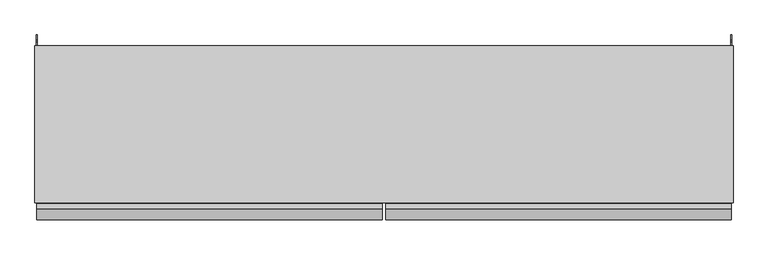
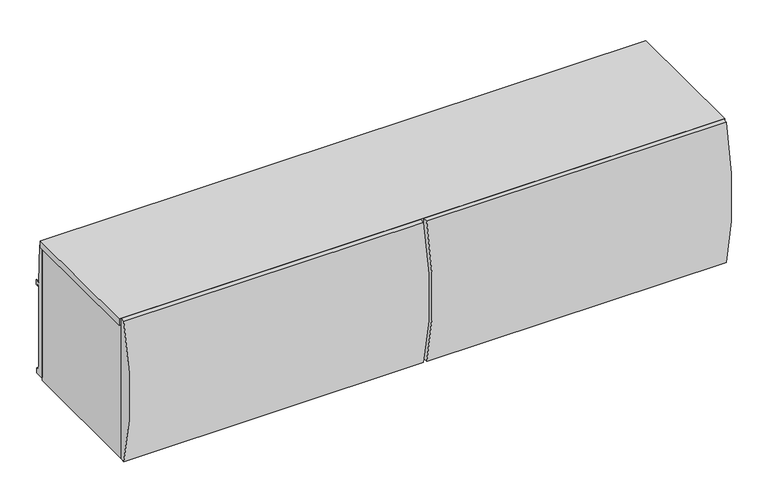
"""IFC4 building model written with IfcOpenShell, lengths in millimetres: furniture geometry, Steelcase - Universal Storage - Over the Case Bin - Radius Front : For Montage - 66W."""

from ifc_helpers import new_model, si_unit, point, frame, frame_2d, origin, place, context, project, spatial, polyline, circle_curve, trimmed, segment, composite_curve, outline, extrude, source, transform, mapped, element, save


def furniture_b9209c4d(model_context):
    return source(origin(), model_context, "Body", "SweptSolid", [
        extrude(outline(composite_curve([segment(polyline([(-393.0769518, 1677.2612846), (-379.476, 1677.2612846), (-379.476, 1266.8226746), (-393.0769518, 1266.8226746)]), True, "CONTINUOUS"), segment(trimmed(circle_curve(frame_2d((352.6331971, 1472.0419796)), 773.4329895), [point((-393.0769518, 1266.8226746))], [point((-393.0769518, 1677.2612846))], False, "CARTESIAN"), True, "CONTINUOUS")], self_intersect=False)), frame((842.772, 0.0, 0.0), z_axis=(1.0, 0.0, 0.0), x_axis=(0.0, 1.0, 0.0)), (0.0, 0.0, 1.0), 829.1983),
        extrude(outline(composite_curve([segment(polyline([(-393.0769518, 1677.2612846), (-379.476, 1677.2612846), (-379.476, 1266.8226746), (-393.0769518, 1266.8226746)]), True, "CONTINUOUS"), segment(trimmed(circle_curve(frame_2d((352.6331971, 1472.0419796)), 773.4329895), [point((-393.0769518, 1266.8226746))], [point((-393.0769518, 1677.2612846))], False, "CARTESIAN"), True, "CONTINUOUS")], self_intersect=False)), frame((4.4448587, 0.0, 0.0), z_axis=(1.0, 0.0, 0.0), x_axis=(0.0, 1.0, 0.0)), (0.0, 0.0, 1.0), 829.1831413),
        extrude(outline(polyline([(0.0, 1657.096), (10.1677703, 1657.096), (13.3857995, 1545.8185744), (26.0095997, 1545.8185744), (26.0095997, 1532.1025512), (17.5768, 1532.1025512), (17.5768, 1537.1064608), (13.3349998, 1537.1064608), (13.3349998, 1522.6538546), (14.2747998, 1522.6538546), (14.2747998, 1296.0858527), (17.2466001, 1296.0858527), (17.2466001, 1289.7358043), (22.5806007, 1289.7358043), (22.5806007, 1274.2164027), (0.0, 1274.2164027), (0.0, 1657.096)])), frame((1670.8882, 0.0, 0.0), z_axis=(1.0, 0.0, 0.0), x_axis=(0.0, 1.0, 0.0)), (0.0, 0.0, 1.0), 1.905),
        extrude(outline(polyline([(1676.4, -377.213238), (0.0, -377.213238), (0.0, 0.0), (1676.4, 0.0), (1676.4, -377.213238)])), frame((0.0, 0.0, 1657.35), z_axis=(0.0, 0.0, 1.0), x_axis=(1.0, 0.0, 0.0)), (0.0, 0.0, 1.0), 19.05),
        extrude(outline(polyline([(15.875, -377.213238), (5.5118, -377.213238), (5.5118, 0.0), (15.875, 0.0), (15.875, -377.213238)])), frame((0.0, 0.0, 1265.428), z_axis=(0.0, 0.0, 1.0), x_axis=(1.0, 0.0, 0.0)), (0.0, 0.0, 1.0), 391.6679457),
        extrude(outline(polyline([(1675.2568665, -377.213238), (1660.525, -377.213238), (1660.525, 0.0), (1675.2568665, 0.0), (1675.2568665, -377.213238)])), frame((0.0, 0.0, 1265.428), z_axis=(0.0, 0.0, 1.0), x_axis=(1.0, 0.0, 0.0)), (0.0, 0.0, 1.0), 391.6679457),
        extrude(outline(polyline([(0.0, 1657.096), (10.1677703, 1657.096), (13.3857995, 1545.8185744), (26.0095997, 1545.8185744), (26.0095997, 1532.1025512), (17.5768, 1532.1025512), (17.5768, 1537.1064608), (13.3349998, 1537.1064608), (13.3349998, 1522.6538546), (14.2747998, 1522.6538546), (14.2747998, 1296.0858527), (17.2466001, 1296.0858527), (17.2466001, 1289.7358043), (22.5806007, 1289.7358043), (22.5806007, 1274.2164027), (0.0, 1274.2164027), (0.0, 1657.096)])), frame((3.6068, 0.0, 0.0), z_axis=(1.0, 0.0, 0.0), x_axis=(0.0, 1.0, 0.0)), (0.0, 0.0, 1.0), 1.905),
        extrude(outline(polyline([(-35.4584098, 1372.819257), (-27.0763996, 1372.819257), (-27.0763996, 1360.1191601), (-33.4264117, 1360.1191601), (-33.4264117, 1323.1622589), (-27.0763996, 1323.1622589), (-27.0763996, 1265.428), (-35.4584098, 1265.428), (-35.4584098, 1293.054213), (-46.1263996, 1293.054213), (-46.1263996, 1268.1875622), (-59.9694137, 1268.1875622), (-59.9694137, 1294.8575912), (-332.8542818, 1294.8575912), (-332.8542818, 1268.1875622), (-377.3042823, 1268.1875622), (-377.3042823, 1310.7072052), (-35.4584098, 1310.7072052), (-35.4584098, 1372.819257)])), frame((15.875, 0.0, 0.0), z_axis=(1.0, 0.0, 0.0), x_axis=(0.0, 1.0, 0.0)), (0.0, 0.0, 1.0), 1644.65),
    ])


if __name__ == "__main__":
    model = new_model("IFC4")
    model_context = context("Model", 3, world=origin())
    ifc_project = project(units=[si_unit("LENGTHUNIT", "METRE", prefix="MILLI")], contexts=[model_context])
    site = spatial("IfcSite", under=ifc_project)
    building = spatial("IfcBuilding", under=site)
    placement = place(None, origin())
    furniture_shape = furniture_b9209c4d(model_context)
    element("IfcFurniture", 1, ObjectType="Steelcase - Universal Storage - Over the Case Bin - Radius Front : For Montage - 66W", at=placement, inside=building, context=model_context, shape_type="MappedRepresentation", body=[
        mapped(furniture_shape, transform((0.0, 0.0, 0.0), x_axis=(1.0, 0.0, 0.0), y_axis=(0.0, 1.0, 0.0), z_axis=(0.0, 0.0, 1.0))),
    ])
    save(model, "model.ifc")
